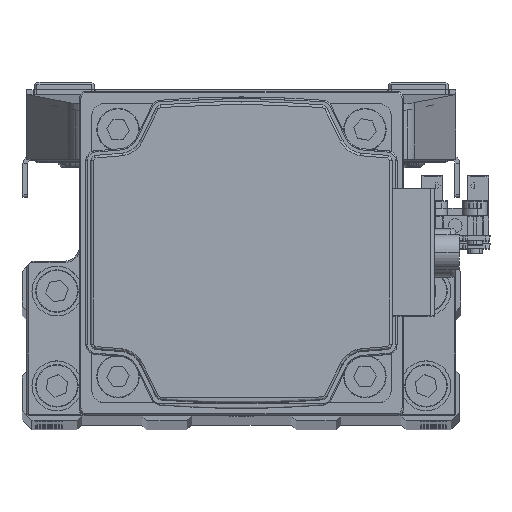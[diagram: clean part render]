
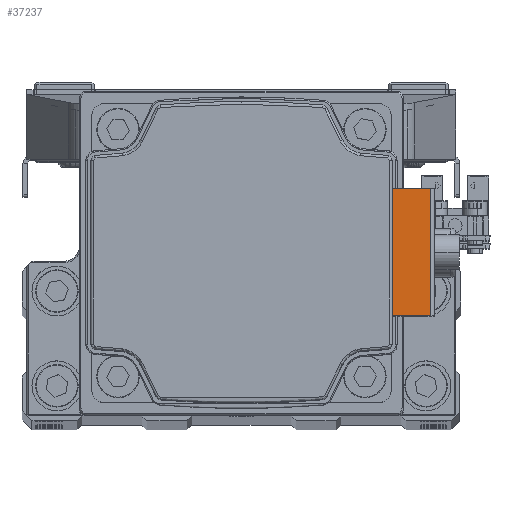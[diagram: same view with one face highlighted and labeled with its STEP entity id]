
A CAD part, top view. The second image highlights one B-rep face of the part: STEP entity #37237.
In plain terms, the highlighted planar face has unit normal (0, 0, 1) as drawn and (0, 0, -1) by its records, which use the part's own axes.
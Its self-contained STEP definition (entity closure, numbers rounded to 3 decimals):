
#2 = DIRECTION ( 'NONE',  ( -1., 0., 0. ) ) ;
#180 = VERTEX_POINT ( 'NONE', #37753 ) ;
#1408 = DIRECTION ( 'NONE',  ( 1., 0., 0. ) ) ;
#3785 = PLANE ( 'NONE',  #37437 ) ;
#4433 = VECTOR ( 'NONE', #46697, 1000. ) ;
#5734 = CARTESIAN_POINT ( 'NONE',  ( -12.75, 37.9, -88.696 ) ) ;
#6708 = CARTESIAN_POINT ( 'NONE',  ( 12.75, 30.2, -88.696 ) ) ;
#8420 = ORIENTED_EDGE ( 'NONE', *, *, #45625, .T. ) ;
#9326 = ORIENTED_EDGE ( 'NONE', *, *, #36469, .T. ) ;
#12806 = VECTOR ( 'NONE', #21094, 1000. ) ;
#13901 = CARTESIAN_POINT ( 'NONE',  ( 12.75, 33.991, -88.696 ) ) ;
#16010 = LINE ( 'NONE', #31341, #4433 ) ;
#17349 = ORIENTED_EDGE ( 'NONE', *, *, #41163, .F. ) ;
#18284 = VECTOR ( 'NONE', #1408, 1000. ) ;
#19167 = CARTESIAN_POINT ( 'NONE',  ( 0., 37.9, -88.696 ) ) ;
#20056 = EDGE_LOOP ( 'NONE', ( #8420, #9326, #34370, #17349 ) ) ;
#20557 = LINE ( 'NONE', #35889, #18284 ) ;
#21094 = DIRECTION ( 'NONE',  ( 0., 1., 0. ) ) ;
#21595 = VECTOR ( 'NONE', #29250, 1000. ) ;
#22693 = CARTESIAN_POINT ( 'NONE',  ( -12.75, 37.9, -88.696 ) ) ;
#23425 = VERTEX_POINT ( 'NONE', #48194 ) ;
#25233 = EDGE_CURVE ( 'NONE', #45754, #180, #48383, .T. ) ;
#29250 = DIRECTION ( 'NONE',  ( 0., 1., 0. ) ) ;
#31341 = CARTESIAN_POINT ( 'NONE',  ( 0., 37.9, -88.696 ) ) ;
#34370 = ORIENTED_EDGE ( 'NONE', *, *, #25233, .F. ) ;
#34494 = DIRECTION ( 'NONE',  ( 0., 0., -1. ) ) ;
#35889 = CARTESIAN_POINT ( 'NONE',  ( 18.438, 30.2, -88.696 ) ) ;
#36469 = EDGE_CURVE ( 'NONE', #43660, #180, #16010, .T. ) ;
#37237 = ADVANCED_FACE ( 'NONE', ( #38266 ), #3785, .T. ) ;
#37437 = AXIS2_PLACEMENT_3D ( 'NONE', #19167, #34494, #2 ) ;
#37753 = CARTESIAN_POINT ( 'NONE',  ( 12.75, 37.9, -88.696 ) ) ;
#38266 = FACE_OUTER_BOUND ( 'NONE', #20056, .T. ) ;
#40212 = LINE ( 'NONE', #5734, #12806 ) ;
#41163 = EDGE_CURVE ( 'NONE', #23425, #45754, #20557, .T. ) ;
#43660 = VERTEX_POINT ( 'NONE', #22693 ) ;
#45625 = EDGE_CURVE ( 'NONE', #23425, #43660, #40212, .T. ) ;
#45754 = VERTEX_POINT ( 'NONE', #6708 ) ;
#46697 = DIRECTION ( 'NONE',  ( 1., 0., 0. ) ) ;
#48194 = CARTESIAN_POINT ( 'NONE',  ( -12.75, 30.2, -88.696 ) ) ;
#48383 = LINE ( 'NONE', #13901, #21595 ) ;
